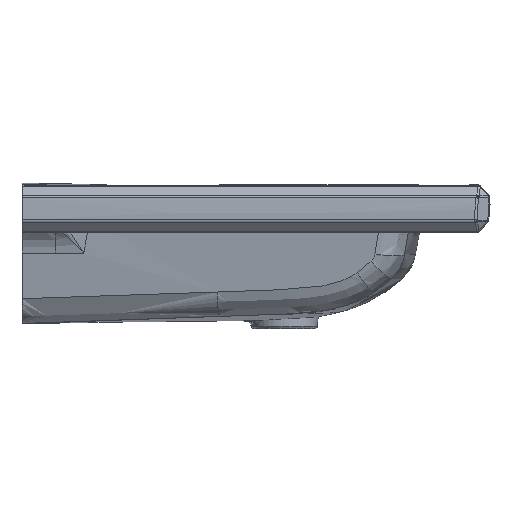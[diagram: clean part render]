
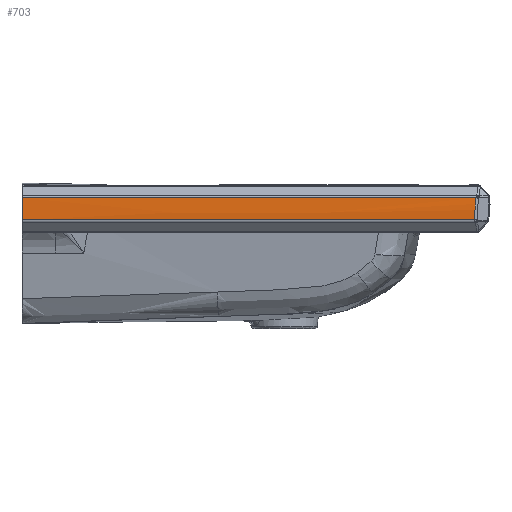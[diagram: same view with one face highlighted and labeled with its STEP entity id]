
A CAD part, left-side view. The second image highlights one B-rep face of the part: STEP entity #703.
In plain terms, the highlighted face is a extrusion surface.
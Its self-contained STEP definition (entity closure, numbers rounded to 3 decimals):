
#386=SURFACE_OF_LINEAR_EXTRUSION('',#3024,#527);
#447=LINE('',#37945,#525);
#448=LINE('',#37949,#526);
#525=VECTOR('',#3700,1.);
#526=VECTOR('',#3705,1.);
#527=VECTOR('',#3706,1.);
#703=ADVANCED_FACE('',(#930),#386,.F.);
#930=FACE_OUTER_BOUND('',#1136,.T.);
#1136=EDGE_LOOP('',(#1898,#1899,#1900,#1901));
#1898=ORIENTED_EDGE('',*,*,#2765,.T.);
#1899=ORIENTED_EDGE('',*,*,#2654,.T.);
#1900=ORIENTED_EDGE('',*,*,#2767,.F.);
#1901=ORIENTED_EDGE('',*,*,#2768,.F.);
#2279=VERTEX_POINT('',#18969);
#2280=VERTEX_POINT('',#18973);
#2339=VERTEX_POINT('',#37946);
#2340=VERTEX_POINT('',#37950);
#2654=EDGE_CURVE('',#2279,#2280,#2972,.T.);
#2765=EDGE_CURVE('',#2339,#2279,#447,.T.);
#2767=EDGE_CURVE('',#2340,#2280,#448,.T.);
#2768=EDGE_CURVE('',#2339,#2340,#3023,.T.);
#2972=B_SPLINE_CURVE_WITH_KNOTS('',3,(#18975,#18976,#18977,#18978),
 .UNSPECIFIED.,.F.,.F.,(4,4),(0.,1.),.UNSPECIFIED.);
#3023=B_SPLINE_CURVE_WITH_KNOTS('',3,(#37951,#37952,#37953,#37954),
 .UNSPECIFIED.,.F.,.F.,(4,4),(0.,1.),.UNSPECIFIED.);
#3024=B_SPLINE_CURVE_WITH_KNOTS('',3,(#37955,#37956,#37957,#37958),
 .UNSPECIFIED.,.F.,.F.,(4,4),(0.,1.),.UNSPECIFIED.);
#3700=DIRECTION('',(0.,-1.,0.));
#3705=DIRECTION('',(0.,-1.,0.));
#3706=DIRECTION('',(0.,-1.,0.));
#18969=CARTESIAN_POINT('',(-499.442,-522.564,-40.29));
#18973=CARTESIAN_POINT('',(-499.457,-523.967,-14.71));
#18975=CARTESIAN_POINT('',(-499.442,-522.564,-40.29));
#18976=CARTESIAN_POINT('',(-500.189,-522.308,-31.748));
#18977=CARTESIAN_POINT('',(-500.199,-522.776,-23.189));
#18978=CARTESIAN_POINT('',(-499.457,-523.967,-14.71));
#37945=CARTESIAN_POINT('',(-499.442,0.,-40.29));
#37946=CARTESIAN_POINT('',(-499.442,0.,-40.29));
#37949=CARTESIAN_POINT('',(-499.457,-524.182,-14.71));
#37950=CARTESIAN_POINT('',(-499.457,0.,-14.71));
#37951=CARTESIAN_POINT('',(-499.442,0.,-40.29));
#37952=CARTESIAN_POINT('',(-500.186,0.,-31.779));
#37953=CARTESIAN_POINT('',(-500.202,0.,-23.22));
#37954=CARTESIAN_POINT('',(-499.457,0.,-14.71));
#37955=CARTESIAN_POINT('',(-499.442,60.,-40.29));
#37956=CARTESIAN_POINT('',(-500.186,60.,-31.779));
#37957=CARTESIAN_POINT('',(-500.202,60.,-23.22));
#37958=CARTESIAN_POINT('',(-499.457,60.,-14.71));
